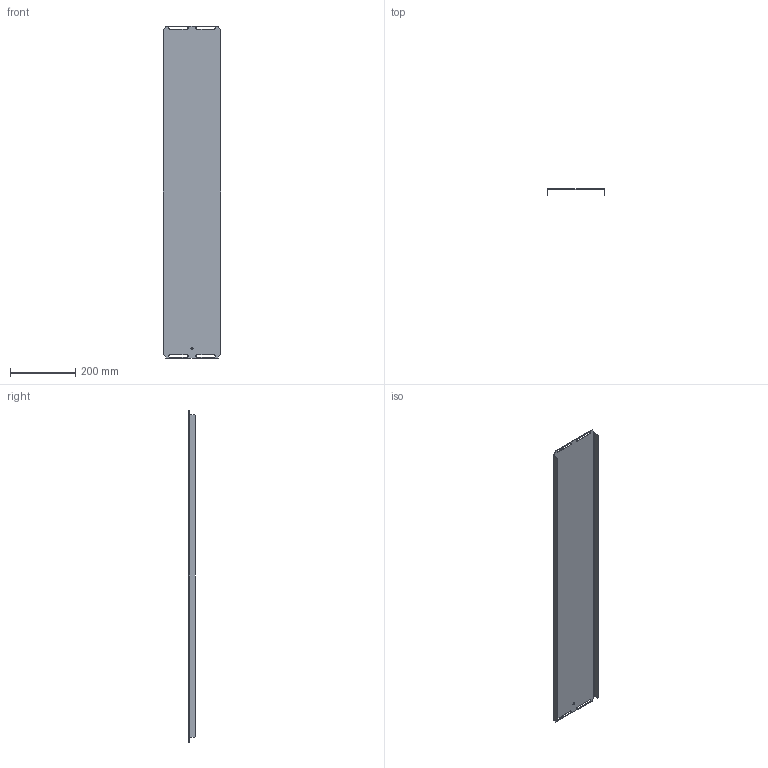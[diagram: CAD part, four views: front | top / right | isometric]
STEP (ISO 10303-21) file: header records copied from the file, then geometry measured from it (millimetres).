
FILE_DESCRIPTION (( 'STEP AP214' ), '1' );
FILE_NAME ('PKV 120 SH Ïàíåëü ñòàöèîíàðíàÿ.STEP', '2023-10-09T14:46:44', ( '' ), ( '' ), 'SwSTEP 2.0', 'SolidWorks 2022', '' );
FILE_SCHEMA (( 'AUTOMOTIVE_DESIGN' ));
Length unit declared in the file: millimetre
Products named in the file (1): PKV 120 SH Панель стационарная
Bounding box: 177 x 19 x 1020.5 mm (x, y, z)
Volume: 255031.2 mm3; surface area: 428614.3 mm2
Topology: 1 solids, 1 shells, 48 faces, 122 edges, 76 vertices
Faces by surface type: plane 30, cylinder 14, bspline 4
Entity records: 1592 total; most frequent: CARTESIAN_POINT 411, ORIENTED_EDGE 244, DIRECTION 216, EDGE_CURVE 122, LINE 86, VECTOR 86, VERTEX_POINT 76, AXIS2_PLACEMENT_3D 65
